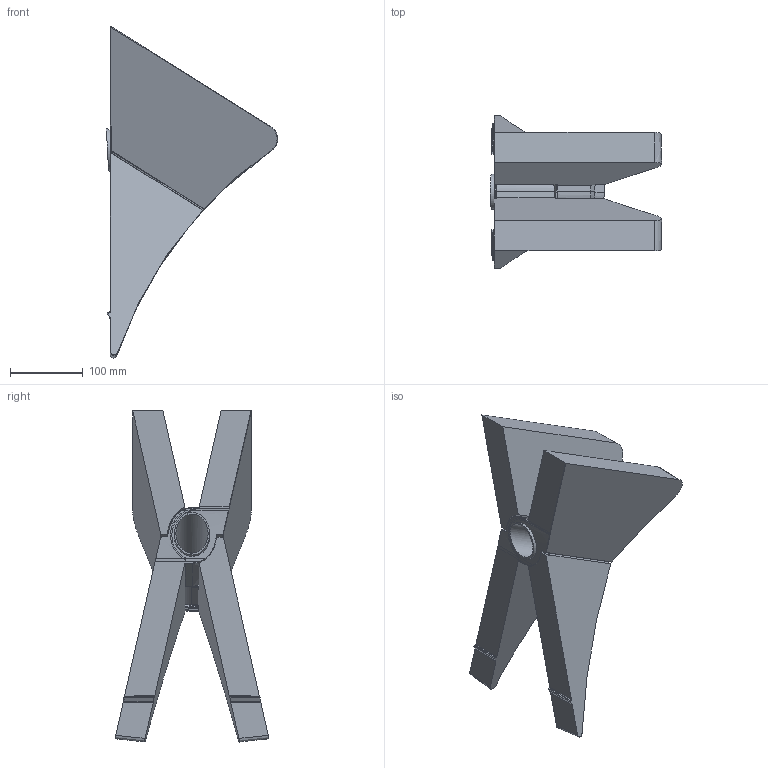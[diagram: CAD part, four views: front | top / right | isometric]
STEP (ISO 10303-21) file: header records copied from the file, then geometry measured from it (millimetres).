
FILE_DESCRIPTION(('STEP AP214'),'1');
FILE_NAME('CUNEO APERTO.stp','2019-01-30T13:04:14',(' '),(' '),'Spatial InterOp 3D',' ',' ');
FILE_SCHEMA(('AUTOMOTIVE_DESIGN { 1 0 10303 214 1 1 1 1 }'));
Length unit declared in the file: metre
Products named in the file (1): 1
Bounding box: 235.07 x 210.65 x 455.49 mm (x, y, z)
Volume: 3904367.5 mm3; surface area: 346811.4 mm2
Topology: 1 solids, 1 shells, 285 faces, 773 edges, 478 vertices
Faces by surface type: bspline 93, cylinder 85, plane 74, cone 14, sphere 13, torus 5, extrusion 1
Full cylindrical faces by diameter (mm): 44 x1, 48 x1, 49 x1
Entity records: 25730 total; most frequent: CARTESIAN_POINT 17013, ORIENTED_EDGE 1504, DIRECTION 1141, EDGE_CURVE 752, VERTEX_POINT 475, AXIS2_PLACEMENT_3D 438, EDGE_LOOP 293, FACE_OUTER_BOUND 288
